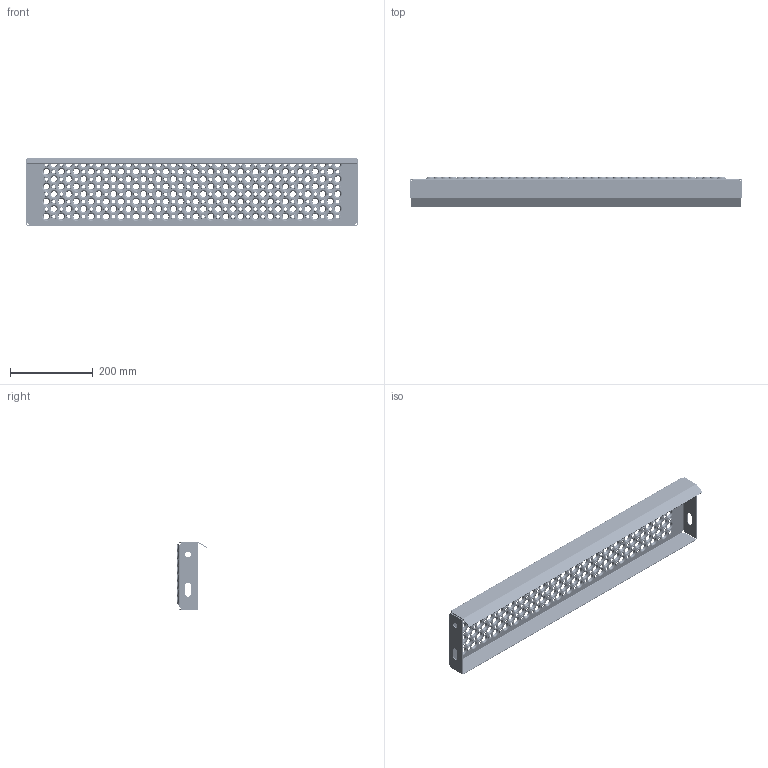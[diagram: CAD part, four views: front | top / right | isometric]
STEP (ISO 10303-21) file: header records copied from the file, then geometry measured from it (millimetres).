
FILE_DESCRIPTION (( 'STEP AP203' ), '1' );
FILE_NAME ('80241608G_Lejdertrin_165x800x45_mm_.STEP', '2015-01-08T08:49:06', ( '' ), ( '' ), 'SwSTEP 2.0', 'SolidWorks 2013', '' );
FILE_SCHEMA (( 'CONFIG_CONTROL_DESIGN' ));
Length unit declared in the file: millimetre
Products named in the file (1): 80241608G_Lejdertrin_165x800x45_mm_
Bounding box: 800 x 71.67 x 165 mm (x, y, z)
Volume: 441889.6 mm3; surface area: 470331 mm2
Topology: 1 solids, 1 shells, 1676 faces, 4662 edges, 2988 vertices
Faces by surface type: cone 960, torus 640, cylinder 36, plane 32, bspline 8
Full cylindrical faces by diameter (mm): 14 x2
Entity records: 39137 total; most frequent: DIRECTION 7382, CARTESIAN_POINT 6305, ORIENTED_EDGE 4200, EDGE_LOOP 3926, AXIS2_PLACEMENT_3D 3645, FACE_OUTER_BOUND 2318, EDGE_CURVE 2100, VERTEX_POINT 2028
